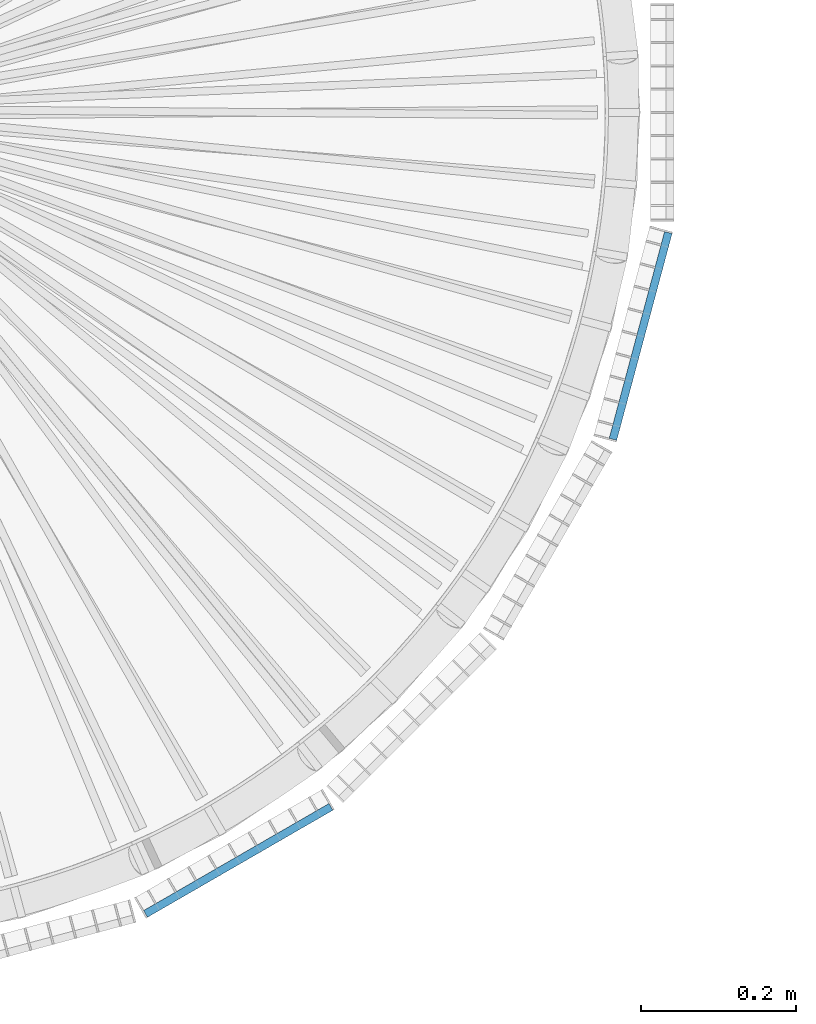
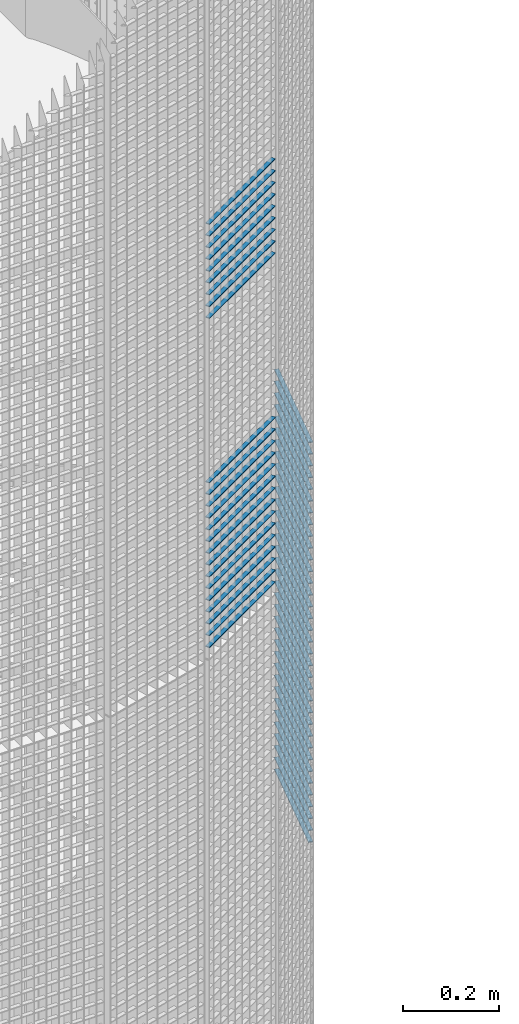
# One storey, part 246 of 1148: 59 beams, 2 elements without a shape of their own.
"""IFC2X3 building model written with IfcOpenShell, lengths in millimetres."""

from ifc_helpers import new_model, si_unit, frame, origin_with_axes, origin_2d_with_axis, place, context, subcontext, project, spatial, rectangle, extrude, material, type_object, element, aggregate, save


model = new_model("IFC2X3")

# Units and contexts
model_context = context("Model", 3, precision=1e-05, world=origin_with_axes())
body_context = subcontext(model_context, "Body", "Model", "MODEL_VIEW")
ifc_project = project(units=[si_unit("LENGTHUNIT", "METRE", prefix="MILLI"), si_unit("AREAUNIT", "SQUARE_METRE"), si_unit("VOLUMEUNIT", "CUBIC_METRE"), si_unit("MASSUNIT", "GRAM", prefix="KILO"), si_unit("TIMEUNIT", "SECOND"), si_unit("PLANEANGLEUNIT", "RADIAN"), si_unit("SOLIDANGLEUNIT", "STERADIAN"), si_unit("THERMODYNAMICTEMPERATUREUNIT", "DEGREE_CELSIUS"), si_unit("LUMINOUSINTENSITYUNIT", "LUMEN")], contexts=[model_context])

# Site, building, storey
site_placement = place(None, origin_with_axes())
site = spatial("IfcSite", under=ifc_project, at=site_placement, Name="Undefined", CompositionType="ELEMENT")
building_placement = place(site_placement, origin_with_axes())
building = spatial("IfcBuilding", under=site, at=building_placement, Name="Undefined", CompositionType="ELEMENT")
storey_placement = place(building_placement, origin_with_axes())
storey = spatial("IfcBuildingStorey", under=building, at=storey_placement, Name="Undefined", CompositionType="ELEMENT", Elevation=0.0)

# Assembly, beams
assembly_1_placement = place(storey_placement, origin_with_axes())
assembly_1 = element("IfcElementAssembly", 1, at=assembly_1_placement, inside=storey, Name="BORDURE", AssemblyPlace="NOTDEFINED", PredefinedType="NOTDEFINED")
ifc_material = material(Name="STEEL/S235JR")
beam_type = type_object("IfcBeamType", Name="PL2*10", PredefinedType="NOTDEFINED")
beam_1_placement = place(assembly_1_placement, frame((437.231955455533, -1033.29996828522, 6870.0), z_axis=(0.499999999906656, -0.866025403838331, 0.0), x_axis=(0.866025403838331, 0.499999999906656, 0.0)))
beam_1 = element("IfcBeam", 2, at=beam_1_placement, type_object=beam_type, material=ifc_material, Name="ENTRETOISE", context=body_context, shape_type="SweptSolid", body=[
    extrude(rectangle(XDim=2.0, YDim=10.0, at=origin_2d_with_axis()), frame((275.999999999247, 9.09494701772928e-13, 1.53210777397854e-14), z_axis=(-1.0, 0.0, 0.0), x_axis=(0.0, -1.0, 0.0)), (0.0, 0.0, 1.0), 276.0),
])
beam_2_placement = place(assembly_1_placement, frame((437.231955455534, -1033.29996828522, 6450.0), z_axis=(0.499999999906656, -0.866025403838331, 0.0), x_axis=(0.866025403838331, 0.499999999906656, 0.0)))
beam_2 = element("IfcBeam", 3, at=beam_2_placement, type_object=beam_type, material=ifc_material, Name="ENTRETOISE", context=body_context, shape_type="SweptSolid", body=[
    extrude(rectangle(XDim=2.0, YDim=10.0, at=origin_2d_with_axis()), frame((275.999999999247, 9.09494701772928e-13, 1.53210777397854e-14), z_axis=(-1.0, 0.0, 0.0), x_axis=(0.0, -1.0, 0.0)), (0.0, 0.0, 1.0), 276.0),
])
beam_3_placement = place(assembly_1_placement, frame((437.231955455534, -1033.29996828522, 6420.0), z_axis=(0.499999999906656, -0.866025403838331, 0.0), x_axis=(0.866025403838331, 0.499999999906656, 0.0)))
beam_3 = element("IfcBeam", 4, at=beam_3_placement, type_object=beam_type, material=ifc_material, Name="ENTRETOISE", context=body_context, shape_type="SweptSolid", body=[
    extrude(rectangle(XDim=2.0, YDim=10.0, at=origin_2d_with_axis()), frame((275.999999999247, 9.09494701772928e-13, 1.53210777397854e-14), z_axis=(-1.0, 0.0, 0.0), x_axis=(0.0, -1.0, 0.0)), (0.0, 0.0, 1.0), 276.0),
])
beam_4_placement = place(assembly_1_placement, frame((437.231955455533, -1033.29996828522, 6900.0), z_axis=(0.499999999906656, -0.866025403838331, 0.0), x_axis=(0.866025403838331, 0.499999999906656, 0.0)))
beam_4 = element("IfcBeam", 5, at=beam_4_placement, type_object=beam_type, material=ifc_material, Name="ENTRETOISE", context=body_context, shape_type="SweptSolid", body=[
    extrude(rectangle(XDim=2.0, YDim=10.0, at=origin_2d_with_axis()), frame((275.999999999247, 9.09494701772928e-13, 1.53210777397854e-14), z_axis=(-1.0, 0.0, 0.0), x_axis=(0.0, -1.0, 0.0)), (0.0, 0.0, 1.0), 276.0),
])
beam_5_placement = place(assembly_1_placement, frame((437.231955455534, -1033.29996828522, 6390.0), z_axis=(0.499999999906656, -0.866025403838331, 0.0), x_axis=(0.866025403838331, 0.499999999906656, 0.0)))
beam_5 = element("IfcBeam", 6, at=beam_5_placement, type_object=beam_type, material=ifc_material, Name="ENTRETOISE", context=body_context, shape_type="SweptSolid", body=[
    extrude(rectangle(XDim=2.0, YDim=10.0, at=origin_2d_with_axis()), frame((275.999999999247, 9.09494701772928e-13, 1.53210777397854e-14), z_axis=(-1.0, 0.0, 0.0), x_axis=(0.0, -1.0, 0.0)), (0.0, 0.0, 1.0), 276.0),
])
beam_6_placement = place(assembly_1_placement, frame((437.231955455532, -1033.29996828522, 6930.0), z_axis=(0.499999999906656, -0.866025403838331, 0.0), x_axis=(0.866025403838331, 0.499999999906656, 0.0)))
beam_6 = element("IfcBeam", 7, at=beam_6_placement, type_object=beam_type, material=ifc_material, Name="ENTRETOISE", context=body_context, shape_type="SweptSolid", body=[
    extrude(rectangle(XDim=2.0, YDim=10.0, at=origin_2d_with_axis()), frame((275.999999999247, 9.09494701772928e-13, 1.53210777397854e-14), z_axis=(-1.0, 0.0, 0.0), x_axis=(0.0, -1.0, 0.0)), (0.0, 0.0, 1.0), 276.0),
])
beam_7_placement = place(assembly_1_placement, frame((437.231955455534, -1033.29996828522, 6360.0), z_axis=(0.499999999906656, -0.866025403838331, 0.0), x_axis=(0.866025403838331, 0.499999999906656, 0.0)))
beam_7 = element("IfcBeam", 8, at=beam_7_placement, type_object=beam_type, material=ifc_material, Name="ENTRETOISE", context=body_context, shape_type="SweptSolid", body=[
    extrude(rectangle(XDim=2.0, YDim=10.0, at=origin_2d_with_axis()), frame((275.999999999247, 9.09494701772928e-13, 1.53210777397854e-14), z_axis=(-1.0, 0.0, 0.0), x_axis=(0.0, -1.0, 0.0)), (0.0, 0.0, 1.0), 276.0),
])
beam_8_placement = place(assembly_1_placement, frame((437.231955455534, -1033.29996828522, 6330.0), z_axis=(0.499999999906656, -0.866025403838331, 0.0), x_axis=(0.866025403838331, 0.499999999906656, 0.0)))
beam_8 = element("IfcBeam", 9, at=beam_8_placement, type_object=beam_type, material=ifc_material, Name="ENTRETOISE", context=body_context, shape_type="SweptSolid", body=[
    extrude(rectangle(XDim=2.0, YDim=10.0, at=origin_2d_with_axis()), frame((275.999999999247, 9.09494701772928e-13, 1.53210777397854e-14), z_axis=(-1.0, 0.0, 0.0), x_axis=(0.0, -1.0, 0.0)), (0.0, 0.0, 1.0), 276.0),
])
beam_9_placement = place(assembly_1_placement, frame((437.231955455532, -1033.29996828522, 6960.0), z_axis=(0.499999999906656, -0.866025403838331, 0.0), x_axis=(0.866025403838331, 0.499999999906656, 0.0)))
beam_9 = element("IfcBeam", 10, at=beam_9_placement, type_object=beam_type, material=ifc_material, Name="ENTRETOISE", context=body_context, shape_type="SweptSolid", body=[
    extrude(rectangle(XDim=2.0, YDim=10.0, at=origin_2d_with_axis()), frame((275.999999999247, 9.09494701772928e-13, 1.53210777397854e-14), z_axis=(-1.0, 0.0, 0.0), x_axis=(0.0, -1.0, 0.0)), (0.0, 0.0, 1.0), 276.0),
])
beam_10_placement = place(assembly_1_placement, frame((437.231955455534, -1033.29996828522, 6300.0), z_axis=(0.499999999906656, -0.866025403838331, 0.0), x_axis=(0.866025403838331, 0.499999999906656, 0.0)))
beam_10 = element("IfcBeam", 11, at=beam_10_placement, type_object=beam_type, material=ifc_material, Name="ENTRETOISE", context=body_context, shape_type="SweptSolid", body=[
    extrude(rectangle(XDim=2.0, YDim=10.0, at=origin_2d_with_axis()), frame((275.999999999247, 9.09494701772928e-13, 1.53210777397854e-14), z_axis=(-1.0, 0.0, 0.0), x_axis=(0.0, -1.0, 0.0)), (0.0, 0.0, 1.0), 276.0),
])
beam_11_placement = place(assembly_1_placement, frame((437.231955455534, -1033.29996828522, 6270.0), z_axis=(0.499999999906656, -0.866025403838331, 0.0), x_axis=(0.866025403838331, 0.499999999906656, 0.0)))
beam_11 = element("IfcBeam", 12, at=beam_11_placement, type_object=beam_type, material=ifc_material, Name="ENTRETOISE", context=body_context, shape_type="SweptSolid", body=[
    extrude(rectangle(XDim=2.0, YDim=10.0, at=origin_2d_with_axis()), frame((275.999999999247, 9.09494701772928e-13, 1.53210777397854e-14), z_axis=(-1.0, 0.0, 0.0), x_axis=(0.0, -1.0, 0.0)), (0.0, 0.0, 1.0), 276.0),
])
beam_12_placement = place(assembly_1_placement, frame((437.231955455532, -1033.29996828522, 6990.0), z_axis=(0.499999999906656, -0.866025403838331, 0.0), x_axis=(0.866025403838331, 0.499999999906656, 0.0)))
beam_12 = element("IfcBeam", 13, at=beam_12_placement, type_object=beam_type, material=ifc_material, Name="ENTRETOISE", context=body_context, shape_type="SweptSolid", body=[
    extrude(rectangle(XDim=2.0, YDim=10.0, at=origin_2d_with_axis()), frame((275.999999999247, 9.09494701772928e-13, 1.53210777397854e-14), z_axis=(-1.0, 0.0, 0.0), x_axis=(0.0, -1.0, 0.0)), (0.0, 0.0, 1.0), 276.0),
])
beam_13_placement = place(assembly_1_placement, frame((437.231955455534, -1033.29996828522, 6240.0), z_axis=(0.499999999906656, -0.866025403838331, 0.0), x_axis=(0.866025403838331, 0.499999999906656, 0.0)))
beam_13 = element("IfcBeam", 14, at=beam_13_placement, type_object=beam_type, material=ifc_material, Name="ENTRETOISE", context=body_context, shape_type="SweptSolid", body=[
    extrude(rectangle(XDim=2.0, YDim=10.0, at=origin_2d_with_axis()), frame((275.999999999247, 9.09494701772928e-13, 1.53210777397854e-14), z_axis=(-1.0, 0.0, 0.0), x_axis=(0.0, -1.0, 0.0)), (0.0, 0.0, 1.0), 276.0),
])
beam_14_placement = place(assembly_1_placement, frame((437.231955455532, -1033.29996828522, 7020.0), z_axis=(0.499999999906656, -0.866025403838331, 0.0), x_axis=(0.866025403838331, 0.499999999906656, 0.0)))
beam_14 = element("IfcBeam", 15, at=beam_14_placement, type_object=beam_type, material=ifc_material, Name="ENTRETOISE", context=body_context, shape_type="SweptSolid", body=[
    extrude(rectangle(XDim=2.0, YDim=10.0, at=origin_2d_with_axis()), frame((275.999999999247, 9.09494701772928e-13, 1.53210777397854e-14), z_axis=(-1.0, 0.0, 0.0), x_axis=(0.0, -1.0, 0.0)), (0.0, 0.0, 1.0), 276.0),
])
beam_15_placement = place(assembly_1_placement, frame((437.231955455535, -1033.29996828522, 6210.0), z_axis=(0.499999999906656, -0.866025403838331, 0.0), x_axis=(0.866025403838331, 0.499999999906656, 0.0)))
beam_15 = element("IfcBeam", 16, at=beam_15_placement, type_object=beam_type, material=ifc_material, Name="ENTRETOISE", context=body_context, shape_type="SweptSolid", body=[
    extrude(rectangle(XDim=2.0, YDim=10.0, at=origin_2d_with_axis()), frame((275.999999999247, 9.09494701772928e-13, 1.53210777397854e-14), z_axis=(-1.0, 0.0, 0.0), x_axis=(0.0, -1.0, 0.0)), (0.0, 0.0, 1.0), 276.0),
])
beam_16_placement = place(assembly_1_placement, frame((437.231955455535, -1033.29996828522, 6180.0), z_axis=(0.499999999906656, -0.866025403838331, 0.0), x_axis=(0.866025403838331, 0.499999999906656, 0.0)))
beam_16 = element("IfcBeam", 17, at=beam_16_placement, type_object=beam_type, material=ifc_material, Name="ENTRETOISE", context=body_context, shape_type="SweptSolid", body=[
    extrude(rectangle(XDim=2.0, YDim=10.0, at=origin_2d_with_axis()), frame((275.999999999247, 9.09494701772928e-13, 1.53210777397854e-14), z_axis=(-1.0, 0.0, 0.0), x_axis=(0.0, -1.0, 0.0)), (0.0, 0.0, 1.0), 276.0),
])
beam_17_placement = place(assembly_1_placement, frame((437.231955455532, -1033.29996828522, 7050.0), z_axis=(0.499999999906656, -0.866025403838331, 0.0), x_axis=(0.866025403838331, 0.499999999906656, 0.0)))
beam_17 = element("IfcBeam", 18, at=beam_17_placement, type_object=beam_type, material=ifc_material, Name="ENTRETOISE", context=body_context, shape_type="SweptSolid", body=[
    extrude(rectangle(XDim=2.0, YDim=10.0, at=origin_2d_with_axis()), frame((275.999999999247, 9.09494701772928e-13, 1.53210777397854e-14), z_axis=(-1.0, 0.0, 0.0), x_axis=(0.0, -1.0, 0.0)), (0.0, 0.0, 1.0), 276.0),
])
beam_18_placement = place(assembly_1_placement, frame((437.231955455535, -1033.29996828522, 6150.0), z_axis=(0.499999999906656, -0.866025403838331, 0.0), x_axis=(0.866025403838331, 0.499999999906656, 0.0)))
beam_18 = element("IfcBeam", 19, at=beam_18_placement, type_object=beam_type, material=ifc_material, Name="ENTRETOISE", context=body_context, shape_type="SweptSolid", body=[
    extrude(rectangle(XDim=2.0, YDim=10.0, at=origin_2d_with_axis()), frame((275.999999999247, 9.09494701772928e-13, 1.53210777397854e-14), z_axis=(-1.0, 0.0, 0.0), x_axis=(0.0, -1.0, 0.0)), (0.0, 0.0, 1.0), 276.0),
])
beam_19_placement = place(assembly_1_placement, frame((437.231955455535, -1033.29996828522, 6120.0), z_axis=(0.499999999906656, -0.866025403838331, 0.0), x_axis=(0.866025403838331, 0.499999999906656, 0.0)))
beam_19 = element("IfcBeam", 20, at=beam_19_placement, type_object=beam_type, material=ifc_material, Name="ENTRETOISE", context=body_context, shape_type="SweptSolid", body=[
    extrude(rectangle(XDim=2.0, YDim=10.0, at=origin_2d_with_axis()), frame((275.999999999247, 9.09494701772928e-13, 1.53210777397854e-14), z_axis=(-1.0, 0.0, 0.0), x_axis=(0.0, -1.0, 0.0)), (0.0, 0.0, 1.0), 276.0),
])
beam_20_placement = place(assembly_1_placement, frame((437.231955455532, -1033.29996828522, 7080.0), z_axis=(0.499999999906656, -0.866025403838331, 0.0), x_axis=(0.866025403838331, 0.499999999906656, 0.0)))
beam_20 = element("IfcBeam", 21, at=beam_20_placement, type_object=beam_type, material=ifc_material, Name="ENTRETOISE", context=body_context, shape_type="SweptSolid", body=[
    extrude(rectangle(XDim=2.0, YDim=10.0, at=origin_2d_with_axis()), frame((275.999999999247, 9.09494701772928e-13, 1.53210777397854e-14), z_axis=(-1.0, 0.0, 0.0), x_axis=(0.0, -1.0, 0.0)), (0.0, 0.0, 1.0), 276.0),
])
beam_21_placement = place(assembly_1_placement, frame((437.231955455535, -1033.29996828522, 6090.0), z_axis=(0.499999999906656, -0.866025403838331, 0.0), x_axis=(0.866025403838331, 0.499999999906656, 0.0)))
beam_21 = element("IfcBeam", 22, at=beam_21_placement, type_object=beam_type, material=ifc_material, Name="ENTRETOISE", context=body_context, shape_type="SweptSolid", body=[
    extrude(rectangle(XDim=2.0, YDim=10.0, at=origin_2d_with_axis()), frame((275.999999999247, 9.09494701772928e-13, 1.53210777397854e-14), z_axis=(-1.0, 0.0, 0.0), x_axis=(0.0, -1.0, 0.0)), (0.0, 0.0, 1.0), 276.0),
])
beam_22_placement = place(assembly_1_placement, frame((437.231955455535, -1033.29996828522, 6060.0), z_axis=(0.499999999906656, -0.866025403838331, 0.0), x_axis=(0.866025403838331, 0.499999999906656, 0.0)))
beam_22 = element("IfcBeam", 23, at=beam_22_placement, type_object=beam_type, material=ifc_material, Name="ENTRETOISE", context=body_context, shape_type="SweptSolid", body=[
    extrude(rectangle(XDim=2.0, YDim=10.0, at=origin_2d_with_axis()), frame((275.999999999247, 9.09494701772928e-13, 1.53210777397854e-14), z_axis=(-1.0, 0.0, 0.0), x_axis=(0.0, -1.0, 0.0)), (0.0, 0.0, 1.0), 276.0),
])
beam_23_placement = place(assembly_1_placement, frame((437.231955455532, -1033.29996828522, 7110.0), z_axis=(0.499999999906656, -0.866025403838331, 0.0), x_axis=(0.866025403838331, 0.499999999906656, 0.0)))
beam_23 = element("IfcBeam", 24, at=beam_23_placement, type_object=beam_type, material=ifc_material, Name="ENTRETOISE", context=body_context, shape_type="SweptSolid", body=[
    extrude(rectangle(XDim=2.0, YDim=10.0, at=origin_2d_with_axis()), frame((275.999999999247, 9.09494701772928e-13, 1.53210777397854e-14), z_axis=(-1.0, 0.0, 0.0), x_axis=(0.0, -1.0, 0.0)), (0.0, 0.0, 1.0), 276.0),
])
beam_24_placement = place(assembly_1_placement, frame((437.231955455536, -1033.29996828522, 6030.0), z_axis=(0.499999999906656, -0.866025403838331, 0.0), x_axis=(0.866025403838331, 0.499999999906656, 0.0)))
beam_24 = element("IfcBeam", 25, at=beam_24_placement, type_object=beam_type, material=ifc_material, Name="ENTRETOISE", context=body_context, shape_type="SweptSolid", body=[
    extrude(rectangle(XDim=2.0, YDim=10.0, at=origin_2d_with_axis()), frame((275.999999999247, 9.09494701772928e-13, 1.53210777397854e-14), z_axis=(-1.0, 0.0, 0.0), x_axis=(0.0, -1.0, 0.0)), (0.0, 0.0, 1.0), 276.0),
])
aggregate(assembly_1, [beam_1, beam_2, beam_3, beam_4, beam_5, beam_6, beam_7, beam_8, beam_9, beam_10, beam_11, beam_12, beam_13, beam_14, beam_15, beam_16, beam_17, beam_18, beam_19, beam_20, beam_21, beam_22, beam_23, beam_24])

assembly_2_placement = place(storey_placement, origin_with_axes())
assembly_2 = element("IfcElementAssembly", 26, at=assembly_2_placement, inside=storey, Name="BORDURE", AssemblyPlace="NOTDEFINED", PredefinedType="NOTDEFINED")
beam_25_placement = place(assembly_2_placement, frame((1039.82309522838, -421.483733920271, 5970.0), z_axis=(0.965925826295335, -0.258819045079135, 0.0), x_axis=(0.258819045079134, 0.965925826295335, 0.0)))
beam_25 = element("IfcBeam", 27, at=beam_25_placement, type_object=beam_type, material=ifc_material, Name="ENTRETOISE", context=body_context, shape_type="SweptSolid", body=[
    extrude(rectangle(XDim=2.0, YDim=10.0, at=origin_2d_with_axis()), frame((275.999999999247, 9.09494701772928e-13, 1.53210777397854e-14), z_axis=(-1.0, 0.0, 0.0), x_axis=(0.0, -1.0, 0.0)), (0.0, 0.0, 1.0), 276.0),
])
beam_26_placement = place(assembly_2_placement, frame((1039.82309522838, -421.483733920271, 5940.0), z_axis=(0.965925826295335, -0.258819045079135, 0.0), x_axis=(0.258819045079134, 0.965925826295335, 0.0)))
beam_26 = element("IfcBeam", 28, at=beam_26_placement, type_object=beam_type, material=ifc_material, Name="ENTRETOISE", context=body_context, shape_type="SweptSolid", body=[
    extrude(rectangle(XDim=2.0, YDim=10.0, at=origin_2d_with_axis()), frame((275.999999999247, 9.09494701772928e-13, 1.53210777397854e-14), z_axis=(-1.0, 0.0, 0.0), x_axis=(0.0, -1.0, 0.0)), (0.0, 0.0, 1.0), 276.0),
])
beam_27_placement = place(assembly_2_placement, frame((1039.82309522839, -421.483733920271, 5910.0), z_axis=(0.965925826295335, -0.258819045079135, 0.0), x_axis=(0.258819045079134, 0.965925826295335, 0.0)))
beam_27 = element("IfcBeam", 29, at=beam_27_placement, type_object=beam_type, material=ifc_material, Name="ENTRETOISE", context=body_context, shape_type="SweptSolid", body=[
    extrude(rectangle(XDim=2.0, YDim=10.0, at=origin_2d_with_axis()), frame((275.999999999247, 9.09494701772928e-13, 1.53210777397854e-14), z_axis=(-1.0, 0.0, 0.0), x_axis=(0.0, -1.0, 0.0)), (0.0, 0.0, 1.0), 276.0),
])
beam_28_placement = place(assembly_2_placement, frame((1039.82309522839, -421.483733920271, 5880.0), z_axis=(0.965925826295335, -0.258819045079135, 0.0), x_axis=(0.258819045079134, 0.965925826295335, 0.0)))
beam_28 = element("IfcBeam", 30, at=beam_28_placement, type_object=beam_type, material=ifc_material, Name="ENTRETOISE", context=body_context, shape_type="SweptSolid", body=[
    extrude(rectangle(XDim=2.0, YDim=10.0, at=origin_2d_with_axis()), frame((275.999999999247, 9.09494701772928e-13, 1.53210777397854e-14), z_axis=(-1.0, 0.0, 0.0), x_axis=(0.0, -1.0, 0.0)), (0.0, 0.0, 1.0), 276.0),
])
beam_29_placement = place(assembly_2_placement, frame((1039.82309522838, -421.483733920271, 5850.0), z_axis=(0.965925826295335, -0.258819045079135, 0.0), x_axis=(0.258819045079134, 0.965925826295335, 0.0)))
beam_29 = element("IfcBeam", 31, at=beam_29_placement, type_object=beam_type, material=ifc_material, Name="ENTRETOISE", context=body_context, shape_type="SweptSolid", body=[
    extrude(rectangle(XDim=2.0, YDim=10.0, at=origin_2d_with_axis()), frame((275.999999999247, 9.09494701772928e-13, 1.53210777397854e-14), z_axis=(-1.0, 0.0, 0.0), x_axis=(0.0, -1.0, 0.0)), (0.0, 0.0, 1.0), 276.0),
])
beam_30_placement = place(assembly_2_placement, frame((1039.82309522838, -421.483733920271, 5820.0), z_axis=(0.965925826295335, -0.258819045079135, 0.0), x_axis=(0.258819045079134, 0.965925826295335, 0.0)))
beam_30 = element("IfcBeam", 32, at=beam_30_placement, type_object=beam_type, material=ifc_material, Name="ENTRETOISE", context=body_context, shape_type="SweptSolid", body=[
    extrude(rectangle(XDim=2.0, YDim=10.0, at=origin_2d_with_axis()), frame((275.999999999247, 9.09494701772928e-13, 1.53210777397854e-14), z_axis=(-1.0, 0.0, 0.0), x_axis=(0.0, -1.0, 0.0)), (0.0, 0.0, 1.0), 276.0),
])
beam_31_placement = place(assembly_2_placement, frame((1039.82309522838, -421.483733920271, 5790.0), z_axis=(0.965925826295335, -0.258819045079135, 0.0), x_axis=(0.258819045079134, 0.965925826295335, 0.0)))
beam_31 = element("IfcBeam", 33, at=beam_31_placement, type_object=beam_type, material=ifc_material, Name="ENTRETOISE", context=body_context, shape_type="SweptSolid", body=[
    extrude(rectangle(XDim=2.0, YDim=10.0, at=origin_2d_with_axis()), frame((275.999999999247, 9.09494701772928e-13, 1.53210777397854e-14), z_axis=(-1.0, 0.0, 0.0), x_axis=(0.0, -1.0, 0.0)), (0.0, 0.0, 1.0), 276.0),
])
beam_32_placement = place(assembly_2_placement, frame((1039.82309522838, -421.483733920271, 5760.0), z_axis=(0.965925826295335, -0.258819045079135, 0.0), x_axis=(0.258819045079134, 0.965925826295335, 0.0)))
beam_32 = element("IfcBeam", 34, at=beam_32_placement, type_object=beam_type, material=ifc_material, Name="ENTRETOISE", context=body_context, shape_type="SweptSolid", body=[
    extrude(rectangle(XDim=2.0, YDim=10.0, at=origin_2d_with_axis()), frame((275.999999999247, 9.09494701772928e-13, 1.53210777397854e-14), z_axis=(-1.0, 0.0, 0.0), x_axis=(0.0, -1.0, 0.0)), (0.0, 0.0, 1.0), 276.0),
])
beam_33_placement = place(assembly_2_placement, frame((1039.82309522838, -421.48373392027, 5730.0), z_axis=(0.965925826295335, -0.258819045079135, 0.0), x_axis=(0.258819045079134, 0.965925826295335, 0.0)))
beam_33 = element("IfcBeam", 35, at=beam_33_placement, type_object=beam_type, material=ifc_material, Name="ENTRETOISE", context=body_context, shape_type="SweptSolid", body=[
    extrude(rectangle(XDim=2.0, YDim=10.0, at=origin_2d_with_axis()), frame((275.999999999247, 9.09494701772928e-13, 1.53210777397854e-14), z_axis=(-1.0, 0.0, 0.0), x_axis=(0.0, -1.0, 0.0)), (0.0, 0.0, 1.0), 276.0),
])
beam_34_placement = place(assembly_2_placement, frame((1039.82309522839, -421.48373392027, 5700.0), z_axis=(0.965925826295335, -0.258819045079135, 0.0), x_axis=(0.258819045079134, 0.965925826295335, 0.0)))
beam_34 = element("IfcBeam", 36, at=beam_34_placement, type_object=beam_type, material=ifc_material, Name="ENTRETOISE", context=body_context, shape_type="SweptSolid", body=[
    extrude(rectangle(XDim=2.0, YDim=10.0, at=origin_2d_with_axis()), frame((275.999999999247, 9.09494701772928e-13, 1.53210777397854e-14), z_axis=(-1.0, 0.0, 0.0), x_axis=(0.0, -1.0, 0.0)), (0.0, 0.0, 1.0), 276.0),
])
beam_35_placement = place(assembly_2_placement, frame((1039.82309522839, -421.48373392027, 5670.0), z_axis=(0.965925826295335, -0.258819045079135, 0.0), x_axis=(0.258819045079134, 0.965925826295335, 0.0)))
beam_35 = element("IfcBeam", 37, at=beam_35_placement, type_object=beam_type, material=ifc_material, Name="ENTRETOISE", context=body_context, shape_type="SweptSolid", body=[
    extrude(rectangle(XDim=2.0, YDim=10.0, at=origin_2d_with_axis()), frame((275.999999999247, 9.09494701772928e-13, 1.53210777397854e-14), z_axis=(-1.0, 0.0, 0.0), x_axis=(0.0, -1.0, 0.0)), (0.0, 0.0, 1.0), 276.0),
])
beam_36_placement = place(assembly_2_placement, frame((1039.82309522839, -421.48373392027, 5640.0), z_axis=(0.965925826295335, -0.258819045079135, 0.0), x_axis=(0.258819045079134, 0.965925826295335, 0.0)))
beam_36 = element("IfcBeam", 38, at=beam_36_placement, type_object=beam_type, material=ifc_material, Name="ENTRETOISE", context=body_context, shape_type="SweptSolid", body=[
    extrude(rectangle(XDim=2.0, YDim=10.0, at=origin_2d_with_axis()), frame((275.999999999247, 9.09494701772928e-13, 1.53210777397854e-14), z_axis=(-1.0, 0.0, 0.0), x_axis=(0.0, -1.0, 0.0)), (0.0, 0.0, 1.0), 276.0),
])
beam_37_placement = place(assembly_2_placement, frame((1039.82309522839, -421.48373392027, 5610.0), z_axis=(0.965925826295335, -0.258819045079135, 0.0), x_axis=(0.258819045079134, 0.965925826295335, 0.0)))
beam_37 = element("IfcBeam", 39, at=beam_37_placement, type_object=beam_type, material=ifc_material, Name="ENTRETOISE", context=body_context, shape_type="SweptSolid", body=[
    extrude(rectangle(XDim=2.0, YDim=10.0, at=origin_2d_with_axis()), frame((275.999999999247, 9.09494701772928e-13, 1.53210777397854e-14), z_axis=(-1.0, 0.0, 0.0), x_axis=(0.0, -1.0, 0.0)), (0.0, 0.0, 1.0), 276.0),
])
beam_38_placement = place(assembly_2_placement, frame((1039.82309522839, -421.48373392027, 5580.0), z_axis=(0.965925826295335, -0.258819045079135, 0.0), x_axis=(0.258819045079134, 0.965925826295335, 0.0)))
beam_38 = element("IfcBeam", 40, at=beam_38_placement, type_object=beam_type, material=ifc_material, Name="ENTRETOISE", context=body_context, shape_type="SweptSolid", body=[
    extrude(rectangle(XDim=2.0, YDim=10.0, at=origin_2d_with_axis()), frame((275.999999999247, 9.09494701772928e-13, 1.53210777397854e-14), z_axis=(-1.0, 0.0, 0.0), x_axis=(0.0, -1.0, 0.0)), (0.0, 0.0, 1.0), 276.0),
])
beam_39_placement = place(assembly_2_placement, frame((1039.82309522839, -421.48373392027, 5550.0), z_axis=(0.965925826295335, -0.258819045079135, 0.0), x_axis=(0.258819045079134, 0.965925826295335, 0.0)))
beam_39 = element("IfcBeam", 41, at=beam_39_placement, type_object=beam_type, material=ifc_material, Name="ENTRETOISE", context=body_context, shape_type="SweptSolid", body=[
    extrude(rectangle(XDim=2.0, YDim=10.0, at=origin_2d_with_axis()), frame((275.999999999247, 9.09494701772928e-13, 1.53210777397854e-14), z_axis=(-1.0, 0.0, 0.0), x_axis=(0.0, -1.0, 0.0)), (0.0, 0.0, 1.0), 276.0),
])
beam_40_placement = place(assembly_2_placement, frame((1039.82309522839, -421.48373392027, 5520.0), z_axis=(0.965925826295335, -0.258819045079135, 0.0), x_axis=(0.258819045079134, 0.965925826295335, 0.0)))
beam_40 = element("IfcBeam", 42, at=beam_40_placement, type_object=beam_type, material=ifc_material, Name="ENTRETOISE", context=body_context, shape_type="SweptSolid", body=[
    extrude(rectangle(XDim=2.0, YDim=10.0, at=origin_2d_with_axis()), frame((275.999999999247, 9.09494701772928e-13, 1.53210777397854e-14), z_axis=(-1.0, 0.0, 0.0), x_axis=(0.0, -1.0, 0.0)), (0.0, 0.0, 1.0), 276.0),
])
beam_41_placement = place(assembly_2_placement, frame((1039.82309522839, -421.48373392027, 5490.0), z_axis=(0.965925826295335, -0.258819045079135, 0.0), x_axis=(0.258819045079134, 0.965925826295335, 0.0)))
beam_41 = element("IfcBeam", 43, at=beam_41_placement, type_object=beam_type, material=ifc_material, Name="ENTRETOISE", context=body_context, shape_type="SweptSolid", body=[
    extrude(rectangle(XDim=2.0, YDim=10.0, at=origin_2d_with_axis()), frame((275.999999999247, 9.09494701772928e-13, 1.53210777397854e-14), z_axis=(-1.0, 0.0, 0.0), x_axis=(0.0, -1.0, 0.0)), (0.0, 0.0, 1.0), 276.0),
])
beam_42_placement = place(assembly_2_placement, frame((1039.82309522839, -421.483733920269, 5460.0), z_axis=(0.965925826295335, -0.258819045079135, 0.0), x_axis=(0.258819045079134, 0.965925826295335, 0.0)))
beam_42 = element("IfcBeam", 44, at=beam_42_placement, type_object=beam_type, material=ifc_material, Name="ENTRETOISE", context=body_context, shape_type="SweptSolid", body=[
    extrude(rectangle(XDim=2.0, YDim=10.0, at=origin_2d_with_axis()), frame((275.999999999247, 9.09494701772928e-13, 1.53210777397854e-14), z_axis=(-1.0, 0.0, 0.0), x_axis=(0.0, -1.0, 0.0)), (0.0, 0.0, 1.0), 276.0),
])
beam_43_placement = place(assembly_2_placement, frame((1039.82309522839, -421.483733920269, 5430.0), z_axis=(0.965925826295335, -0.258819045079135, 0.0), x_axis=(0.258819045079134, 0.965925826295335, 0.0)))
beam_43 = element("IfcBeam", 45, at=beam_43_placement, type_object=beam_type, material=ifc_material, Name="ENTRETOISE", context=body_context, shape_type="SweptSolid", body=[
    extrude(rectangle(XDim=2.0, YDim=10.0, at=origin_2d_with_axis()), frame((275.999999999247, 9.09494701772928e-13, 1.53210777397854e-14), z_axis=(-1.0, 0.0, 0.0), x_axis=(0.0, -1.0, 0.0)), (0.0, 0.0, 1.0), 276.0),
])
beam_44_placement = place(assembly_2_placement, frame((1039.82309522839, -421.483733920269, 5400.0), z_axis=(0.965925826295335, -0.258819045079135, 0.0), x_axis=(0.258819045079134, 0.965925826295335, 0.0)))
beam_44 = element("IfcBeam", 46, at=beam_44_placement, type_object=beam_type, material=ifc_material, Name="ENTRETOISE", context=body_context, shape_type="SweptSolid", body=[
    extrude(rectangle(XDim=2.0, YDim=10.0, at=origin_2d_with_axis()), frame((275.999999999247, 9.09494701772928e-13, 1.53210777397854e-14), z_axis=(-1.0, 0.0, 0.0), x_axis=(0.0, -1.0, 0.0)), (0.0, 0.0, 1.0), 276.0),
])
beam_45_placement = place(assembly_2_placement, frame((1039.82309522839, -421.483733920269, 5370.0), z_axis=(0.965925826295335, -0.258819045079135, 0.0), x_axis=(0.258819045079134, 0.965925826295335, 0.0)))
beam_45 = element("IfcBeam", 47, at=beam_45_placement, type_object=beam_type, material=ifc_material, Name="ENTRETOISE", context=body_context, shape_type="SweptSolid", body=[
    extrude(rectangle(XDim=2.0, YDim=10.0, at=origin_2d_with_axis()), frame((275.999999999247, 9.09494701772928e-13, 1.53210777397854e-14), z_axis=(-1.0, 0.0, 0.0), x_axis=(0.0, -1.0, 0.0)), (0.0, 0.0, 1.0), 276.0),
])
beam_46_placement = place(assembly_2_placement, frame((1039.82309522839, -421.483733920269, 5340.0), z_axis=(0.965925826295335, -0.258819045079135, 0.0), x_axis=(0.258819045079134, 0.965925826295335, 0.0)))
beam_46 = element("IfcBeam", 48, at=beam_46_placement, type_object=beam_type, material=ifc_material, Name="ENTRETOISE", context=body_context, shape_type="SweptSolid", body=[
    extrude(rectangle(XDim=2.0, YDim=10.0, at=origin_2d_with_axis()), frame((275.999999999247, 9.09494701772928e-13, 1.53210777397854e-14), z_axis=(-1.0, 0.0, 0.0), x_axis=(0.0, -1.0, 0.0)), (0.0, 0.0, 1.0), 276.0),
])
beam_47_placement = place(assembly_2_placement, frame((1039.82309522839, -421.483733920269, 5310.0), z_axis=(0.965925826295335, -0.258819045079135, 0.0), x_axis=(0.258819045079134, 0.965925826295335, 0.0)))
beam_47 = element("IfcBeam", 49, at=beam_47_placement, type_object=beam_type, material=ifc_material, Name="ENTRETOISE", context=body_context, shape_type="SweptSolid", body=[
    extrude(rectangle(XDim=2.0, YDim=10.0, at=origin_2d_with_axis()), frame((275.999999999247, 9.09494701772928e-13, 1.53210777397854e-14), z_axis=(-1.0, 0.0, 0.0), x_axis=(0.0, -1.0, 0.0)), (0.0, 0.0, 1.0), 276.0),
])
beam_48_placement = place(assembly_2_placement, frame((1039.82309522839, -421.483733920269, 5280.0), z_axis=(0.965925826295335, -0.258819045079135, 0.0), x_axis=(0.258819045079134, 0.965925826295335, 0.0)))
beam_48 = element("IfcBeam", 50, at=beam_48_placement, type_object=beam_type, material=ifc_material, Name="ENTRETOISE", context=body_context, shape_type="SweptSolid", body=[
    extrude(rectangle(XDim=2.0, YDim=10.0, at=origin_2d_with_axis()), frame((275.999999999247, 9.09494701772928e-13, 1.53210777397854e-14), z_axis=(-1.0, 0.0, 0.0), x_axis=(0.0, -1.0, 0.0)), (0.0, 0.0, 1.0), 276.0),
])
beam_49_placement = place(assembly_2_placement, frame((1039.82309522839, -421.483733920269, 5250.0), z_axis=(0.965925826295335, -0.258819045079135, 0.0), x_axis=(0.258819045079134, 0.965925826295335, 0.0)))
beam_49 = element("IfcBeam", 51, at=beam_49_placement, type_object=beam_type, material=ifc_material, Name="ENTRETOISE", context=body_context, shape_type="SweptSolid", body=[
    extrude(rectangle(XDim=2.0, YDim=10.0, at=origin_2d_with_axis()), frame((275.999999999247, 9.09494701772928e-13, 1.53210777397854e-14), z_axis=(-1.0, 0.0, 0.0), x_axis=(0.0, -1.0, 0.0)), (0.0, 0.0, 1.0), 276.0),
])
beam_50_placement = place(assembly_2_placement, frame((1039.82309522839, -421.483733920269, 5220.0), z_axis=(0.965925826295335, -0.258819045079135, 0.0), x_axis=(0.258819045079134, 0.965925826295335, 0.0)))
beam_50 = element("IfcBeam", 52, at=beam_50_placement, type_object=beam_type, material=ifc_material, Name="ENTRETOISE", context=body_context, shape_type="SweptSolid", body=[
    extrude(rectangle(XDim=2.0, YDim=10.0, at=origin_2d_with_axis()), frame((275.999999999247, 9.09494701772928e-13, 1.53210777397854e-14), z_axis=(-1.0, 0.0, 0.0), x_axis=(0.0, -1.0, 0.0)), (0.0, 0.0, 1.0), 276.0),
])
beam_51_placement = place(assembly_2_placement, frame((1039.82309522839, -421.483733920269, 5190.0), z_axis=(0.965925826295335, -0.258819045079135, 0.0), x_axis=(0.258819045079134, 0.965925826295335, 0.0)))
beam_51 = element("IfcBeam", 53, at=beam_51_placement, type_object=beam_type, material=ifc_material, Name="ENTRETOISE", context=body_context, shape_type="SweptSolid", body=[
    extrude(rectangle(XDim=2.0, YDim=10.0, at=origin_2d_with_axis()), frame((275.999999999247, 9.09494701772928e-13, 1.53210777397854e-14), z_axis=(-1.0, 0.0, 0.0), x_axis=(0.0, -1.0, 0.0)), (0.0, 0.0, 1.0), 276.0),
])
beam_52_placement = place(assembly_2_placement, frame((1039.82309522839, -421.483733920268, 5160.0), z_axis=(0.965925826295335, -0.258819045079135, 0.0), x_axis=(0.258819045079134, 0.965925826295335, 0.0)))
beam_52 = element("IfcBeam", 54, at=beam_52_placement, type_object=beam_type, material=ifc_material, Name="ENTRETOISE", context=body_context, shape_type="SweptSolid", body=[
    extrude(rectangle(XDim=2.0, YDim=10.0, at=origin_2d_with_axis()), frame((275.999999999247, 9.09494701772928e-13, 1.53210777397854e-14), z_axis=(-1.0, 0.0, 0.0), x_axis=(0.0, -1.0, 0.0)), (0.0, 0.0, 1.0), 276.0),
])
beam_53_placement = place(assembly_2_placement, frame((1039.82309522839, -421.483733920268, 5130.0), z_axis=(0.965925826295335, -0.258819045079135, 0.0), x_axis=(0.258819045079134, 0.965925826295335, 0.0)))
beam_53 = element("IfcBeam", 55, at=beam_53_placement, type_object=beam_type, material=ifc_material, Name="ENTRETOISE", context=body_context, shape_type="SweptSolid", body=[
    extrude(rectangle(XDim=2.0, YDim=10.0, at=origin_2d_with_axis()), frame((275.999999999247, 9.09494701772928e-13, 1.53210777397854e-14), z_axis=(-1.0, 0.0, 0.0), x_axis=(0.0, -1.0, 0.0)), (0.0, 0.0, 1.0), 276.0),
])
beam_54_placement = place(assembly_2_placement, frame((1039.82309522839, -421.483733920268, 5100.0), z_axis=(0.965925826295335, -0.258819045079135, 0.0), x_axis=(0.258819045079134, 0.965925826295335, 0.0)))
beam_54 = element("IfcBeam", 56, at=beam_54_placement, type_object=beam_type, material=ifc_material, Name="ENTRETOISE", context=body_context, shape_type="SweptSolid", body=[
    extrude(rectangle(XDim=2.0, YDim=10.0, at=origin_2d_with_axis()), frame((275.999999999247, 9.09494701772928e-13, 1.53210777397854e-14), z_axis=(-1.0, 0.0, 0.0), x_axis=(0.0, -1.0, 0.0)), (0.0, 0.0, 1.0), 276.0),
])
beam_55_placement = place(assembly_2_placement, frame((1039.82309522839, -421.483733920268, 5070.0), z_axis=(0.965925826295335, -0.258819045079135, 0.0), x_axis=(0.258819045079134, 0.965925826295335, 0.0)))
beam_55 = element("IfcBeam", 57, at=beam_55_placement, type_object=beam_type, material=ifc_material, Name="ENTRETOISE", context=body_context, shape_type="SweptSolid", body=[
    extrude(rectangle(XDim=2.0, YDim=10.0, at=origin_2d_with_axis()), frame((275.999999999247, 9.09494701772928e-13, 1.53210777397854e-14), z_axis=(-1.0, 0.0, 0.0), x_axis=(0.0, -1.0, 0.0)), (0.0, 0.0, 1.0), 276.0),
])
beam_56_placement = place(assembly_2_placement, frame((1039.82309522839, -421.483733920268, 5040.0), z_axis=(0.965925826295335, -0.258819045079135, 0.0), x_axis=(0.258819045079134, 0.965925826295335, 0.0)))
beam_56 = element("IfcBeam", 58, at=beam_56_placement, type_object=beam_type, material=ifc_material, Name="ENTRETOISE", context=body_context, shape_type="SweptSolid", body=[
    extrude(rectangle(XDim=2.0, YDim=10.0, at=origin_2d_with_axis()), frame((275.999999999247, 9.09494701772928e-13, 1.53210777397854e-14), z_axis=(-1.0, 0.0, 0.0), x_axis=(0.0, -1.0, 0.0)), (0.0, 0.0, 1.0), 276.0),
])
beam_57_placement = place(assembly_2_placement, frame((1039.82309522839, -421.483733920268, 5010.0), z_axis=(0.965925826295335, -0.258819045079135, 0.0), x_axis=(0.258819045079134, 0.965925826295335, 0.0)))
beam_57 = element("IfcBeam", 59, at=beam_57_placement, type_object=beam_type, material=ifc_material, Name="ENTRETOISE", context=body_context, shape_type="SweptSolid", body=[
    extrude(rectangle(XDim=2.0, YDim=10.0, at=origin_2d_with_axis()), frame((275.999999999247, 9.09494701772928e-13, 1.53210777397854e-14), z_axis=(-1.0, 0.0, 0.0), x_axis=(0.0, -1.0, 0.0)), (0.0, 0.0, 1.0), 276.0),
])
beam_58_placement = place(assembly_2_placement, frame((1039.82309522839, -421.483733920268, 4980.0), z_axis=(0.965925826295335, -0.258819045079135, 0.0), x_axis=(0.258819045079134, 0.965925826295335, 0.0)))
beam_58 = element("IfcBeam", 60, at=beam_58_placement, type_object=beam_type, material=ifc_material, Name="ENTRETOISE", context=body_context, shape_type="SweptSolid", body=[
    extrude(rectangle(XDim=2.0, YDim=10.0, at=origin_2d_with_axis()), frame((275.999999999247, 9.09494701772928e-13, 1.53210777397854e-14), z_axis=(-1.0, 0.0, 0.0), x_axis=(0.0, -1.0, 0.0)), (0.0, 0.0, 1.0), 276.0),
])
beam_59_placement = place(assembly_2_placement, frame((1039.82309522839, -421.483733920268, 4950.0), z_axis=(0.965925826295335, -0.258819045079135, 0.0), x_axis=(0.258819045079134, 0.965925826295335, 0.0)))
beam_59 = element("IfcBeam", 61, at=beam_59_placement, type_object=beam_type, material=ifc_material, Name="ENTRETOISE", context=body_context, shape_type="SweptSolid", body=[
    extrude(rectangle(XDim=2.0, YDim=10.0, at=origin_2d_with_axis()), frame((275.999999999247, 9.09494701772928e-13, 1.53210777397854e-14), z_axis=(-1.0, 0.0, 0.0), x_axis=(0.0, -1.0, 0.0)), (0.0, 0.0, 1.0), 276.0),
])
aggregate(assembly_2, [beam_25, beam_26, beam_27, beam_28, beam_29, beam_30, beam_31, beam_32, beam_33, beam_34, beam_35, beam_36, beam_37, beam_38, beam_39, beam_40, beam_41, beam_42, beam_43, beam_44, beam_45, beam_46, beam_47, beam_48, beam_49, beam_50, beam_51, beam_52, beam_53, beam_54, beam_55, beam_56, beam_57, beam_58, beam_59])

save(model, "model.ifc")
